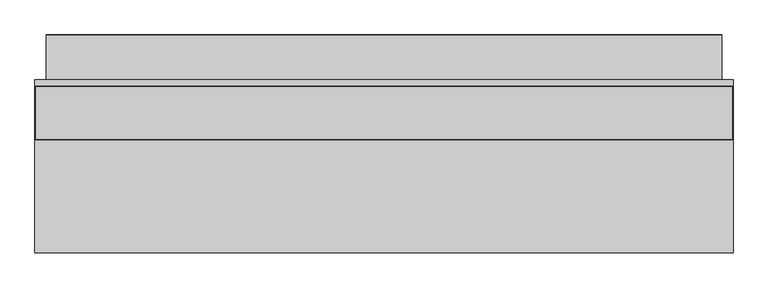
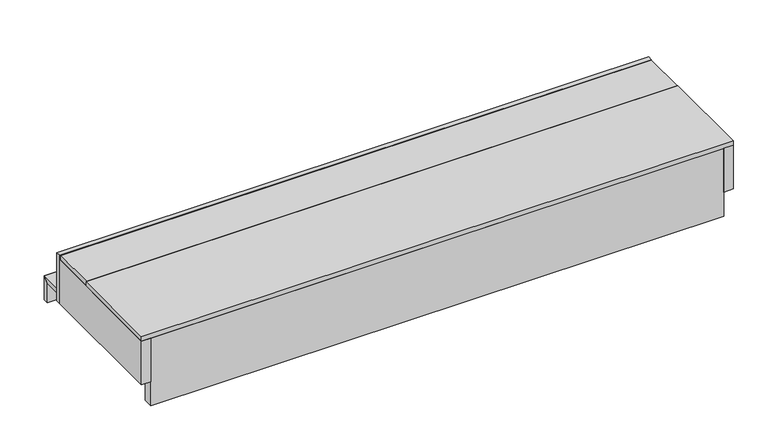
"""IFC4 building model written with IfcOpenShell, lengths in millimetres: proxy geometry, FOUNDATION^OPEN OFFICE 1_12x29x93 WIRE WALL-PARTS SOLID."""

from ifc_helpers import new_model, si_unit, frame, origin, origin_with_axes, place, context, project, spatial, polyline, outline, extrude, source, transform, mapped, element, save


def generic_models_5073ac66(model_context):
    return source(origin(), model_context, "Body", "SweptSolid", [
        extrude(outline(polyline([(0.0, 565.15), (0.0, 0.0), (-38.1, 0.0), (-38.1, 565.15), (0.0, 565.15)])), frame((0.0, 0.0, 101.6), z_axis=(0.0, 0.0, 1.0), x_axis=(1.0, 0.0, 0.0)), (0.0, 0.0, 1.0), 184.15),
        extrude(outline(polyline([(565.15, 101.6), (736.6, 101.6), (717.55, 82.55), (565.15, 82.55), (565.15, 101.6)])), frame((0.0, 0.0, 0.0), z_axis=(1.0, 0.0, 0.0), x_axis=(0.0, 1.0, 0.0)), (0.0, 0.0, 1.0), 2286.0),
        extrude(outline(polyline([(2286.0, 0.0), (2286.0, 565.15), (2324.1, 565.15), (2324.1, 0.0), (2286.0, 0.0)])), frame((0.0, 0.0, 101.6), z_axis=(0.0, 0.0, 1.0), x_axis=(1.0, 0.0, 0.0)), (0.0, 0.0, 1.0), 184.15),
        extrude(outline(polyline([(2324.1, 565.15), (-38.1, 565.15), (-38.1, 584.2), (2324.1, 584.2), (2324.1, 565.15)])), frame((0.0, 0.0, 101.6), z_axis=(0.0, 0.0, 1.0), x_axis=(1.0, 0.0, 0.0)), (0.0, 0.0, 1.0), 203.2),
        extrude(outline(polyline([(717.55, 82.55), (736.6, 101.6), (736.6, 0.0), (717.55, 0.0), (717.55, 82.55)])), frame((0.0, 0.0, 0.0), z_axis=(1.0, 0.0, 0.0), x_axis=(0.0, 1.0, 0.0)), (0.0, 0.0, 1.0), 2286.0),
        extrude(outline(polyline([(2324.1, 0.0), (-38.1, 0.0), (-38.1, 381.0), (2324.1, 381.0), (2324.1, 0.0)])), frame((0.0, 0.0, 285.75), z_axis=(0.0, 0.0, 1.0), x_axis=(1.0, 0.0, 0.0)), (0.0, 0.0, 1.0), 19.05),
        extrude(outline(polyline([(2321.71875, 383.38125), (-35.71875, 383.38125), (-35.71875, 561.975), (2321.71875, 561.975), (2321.71875, 383.38125)])), frame((0.0, 0.0, 285.75), z_axis=(0.0, 0.0, 1.0), x_axis=(1.0, 0.0, 0.0)), (0.0, 0.0, 1.0), 19.05),
        extrude(outline(polyline([(0.0, 0.0), (0.0, 38.1), (2286.0, 38.1), (2286.0, 0.0), (0.0, 0.0)])), origin_with_axes(), (0.0, 0.0, 1.0), 285.75),
    ])


if __name__ == "__main__":
    model = new_model("IFC4")
    model_context = context("Model", 3, world=origin())
    ifc_project = project(units=[si_unit("LENGTHUNIT", "METRE", prefix="MILLI")], contexts=[model_context])
    site = spatial("IfcSite", under=ifc_project)
    building = spatial("IfcBuilding", under=site)
    placement = place(None, origin())
    generic_models_shape = generic_models_5073ac66(model_context)
    element("IfcBuildingElementProxy", 1, Name="FOUNDATION^OPEN OFFICE 1_12x29x93 WIRE WALL-PARTS SOLID", ObjectType="FOUNDATION^OPEN OFFICE 1_12x29x93 WIRE WALL-PARTS SOLID", at=placement, inside=building, context=model_context, shape_type="MappedRepresentation", body=[
        mapped(generic_models_shape, transform((0.0, 0.0, 0.0), x_axis=(1.0, 0.0, 0.0), y_axis=(0.0, 1.0, 0.0), z_axis=(0.0, 0.0, 1.0))),
    ])
    save(model, "model.ifc")
